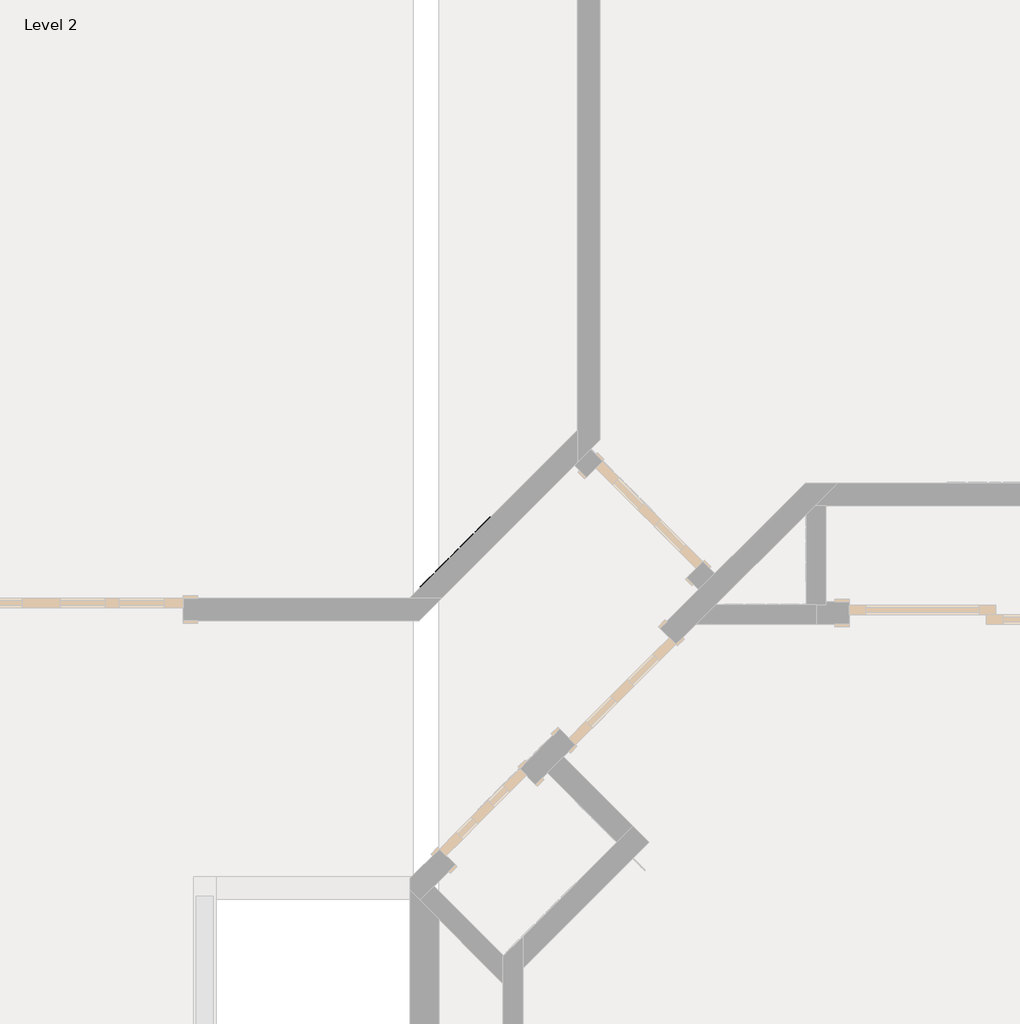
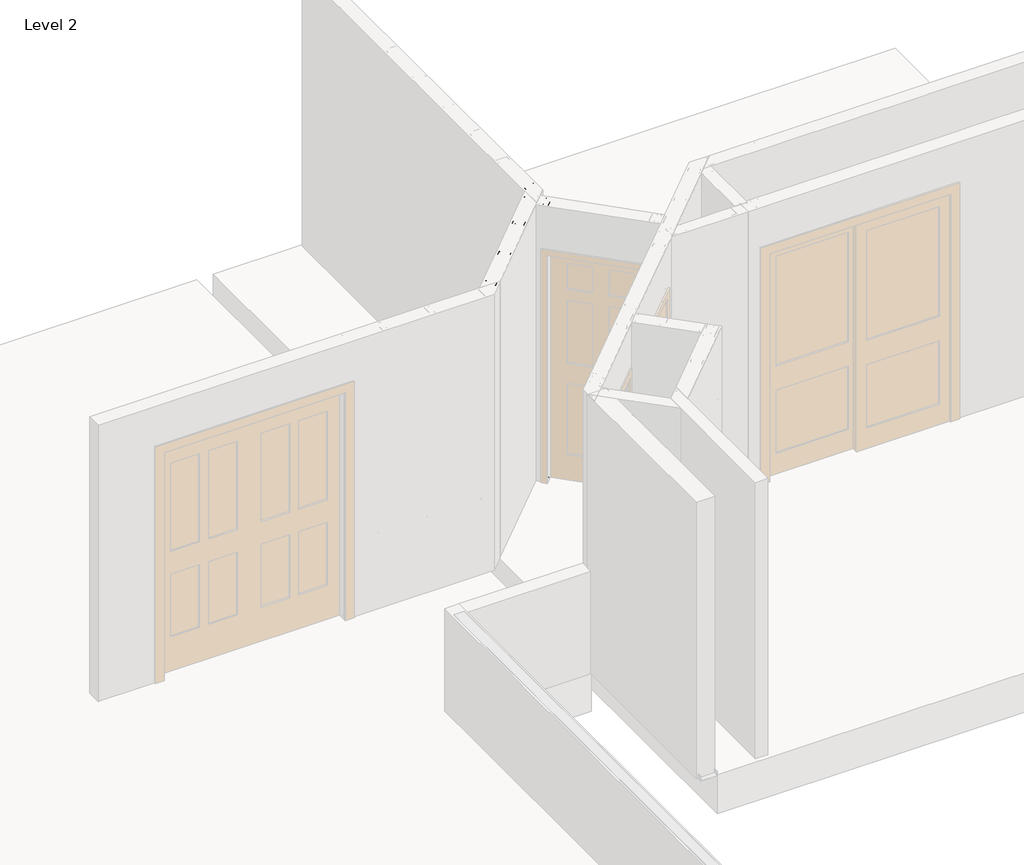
# One storey, part 32 of 46: 6 columns, 2 beams, 1 fastener.
"""IFC4 building model written with IfcOpenShell, lengths in millimetres."""

from ifc_helpers import new_model, si_unit, point, frame, origin, place, context, project, spatial, circle_curve, ellipse_curve, trimmed, transform, mapped, element, save
from ifc_brep_helpers import plane_surface, extruded_surface, advanced_brep
from components import beam_350nf150_33_bcca35cb, beam_350nf150_33_51fc6f5c, column_350nf150_33_a93e9d8a, panellabel_3153df19

model = new_model("IFC4")

# Units and contexts
model_context = context("Model", 3, world=origin())
ifc_project = project(units=[si_unit("LENGTHUNIT", "METRE", prefix="MILLI")], contexts=[model_context])

# Site, building, storey
site = spatial("IfcSite", under=ifc_project)
building = spatial("IfcBuilding", under=site)
storey = spatial("IfcBuildingStorey", under=building, Name="Level 2", Elevation=3060.7)

# Beams
placement = place(None, origin())
beam_350nf150_33_shape = beam_350nf150_33_bcca35cb(model_context)
element("IfcBeam", 1, ObjectType="BIMSF-SSMA-S : 350NF150-33", at=placement, inside=storey, context=model_context, shape_type="MappedRepresentation", body=[
    mapped(beam_350nf150_33_shape, transform((-8623.2388304, 10108.5679326, 3076.575), x_axis=(0.7071067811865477, 0.7071067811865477, 0.0), y_axis=(0.0, 0.0, -1.0000000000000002), z_axis=(-0.7071067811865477, 0.7071067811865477, 0.0))),
])
beam_350nf150_33_2_shape = beam_350nf150_33_51fc6f5c(model_context)
element("IfcBeam", 2, ObjectType="BIMSF-SSMA-S : 350NF150-33", at=placement, inside=storey, context=model_context, shape_type="MappedRepresentation", body=[
    mapped(beam_350nf150_33_2_shape, transform((-8170.2299403, 10423.5677472, 3076.575), x_axis=(0.7071067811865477, -0.7071067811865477, 0.0), y_axis=(0.0, 0.0, -1.0000000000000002), z_axis=(0.7071067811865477, 0.7071067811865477, 0.0))),
])

# Columns
element("IfcColumn", 3, ObjectType="BIMSF-SSMA-S-Column : 350NF150-33", at=placement, inside=storey, context=model_context, shape_type="AdvancedBrep", body=[
    advanced_brep(
    [(-8119.1235524, 10612.6832106, 3061.5929687), (-8208.0235524, 10612.6832106, 3061.5929687), (-8208.0235524, 10650.7832106, 3061.5929687), (-8202.3660366, 10650.7832106, 3061.5929687), (-8202.3660366, 10649.9008948, 3061.5929687), (-8207.1412366, 10649.9008948, 3061.5929687), (-8207.1412366, 10613.5655264, 3061.5929687), (-8120.0058682, 10613.5655264, 3061.5929687), (-8120.0058682, 10649.9008948, 3061.5929687), (-8124.7810682, 10649.9008948, 3061.5929687), (-8124.7810682, 10650.7832106, 3061.5929687), (-8119.1235524, 10650.7832106, 3061.5929687), (-8119.1235524, 10612.6832106, 5523.6070313), (-8208.0235524, 10612.6832106, 5523.6070313), (-8176.2735524, 10612.6832106, 3671.1929688), (-8150.8735524, 10612.6832106, 3671.1929688), (-8176.2735524, 10612.6832106, 4890.3929687), (-8150.8735524, 10612.6832106, 4890.3929687), (-8208.0235524, 10650.7832106, 5523.6070313), (-8202.3660366, 10650.7832106, 5523.6070313), (-8202.3660366, 10649.9008948, 5523.6070313), (-8207.1412366, 10649.9008948, 5523.6070313), (-8207.1412366, 10613.5655264, 5523.6070313), (-8120.0058682, 10613.5655264, 5523.6070313), (-8150.8735524, 10613.5655264, 3671.1929688), (-8176.2735524, 10613.5655264, 3671.1929688), (-8150.8735524, 10613.5655264, 4890.3929688), (-8176.2735524, 10613.5655264, 4890.3929688), (-8120.0058682, 10649.9008948, 5523.6070313), (-8124.7810682, 10649.9008948, 5523.6070313), (-8124.7810682, 10650.7832106, 5523.6070313), (-8119.1235524, 10650.7832106, 5523.6070313)],
    [
        (0, 1),
        (1, 2),
        (2, 3),
        (3, 4),
        (4, 5),
        (5, 6),
        (6, 7),
        (7, 8),
        (8, 9),
        (9, 10),
        (10, 11),
        (11, 0),
        (0, 12),
        (12, 13),
        (13, 1),
        (14, 15, circle_curve(frame((-8163.5735524, 10612.6832106, 3671.1929688), z_axis=(0.0, 1.0, 0.0), x_axis=(-1.0, 0.0, 0.0)), 12.7)),
        (15, 14, circle_curve(frame((-8163.5735524, 10612.6832106, 3671.1929688), z_axis=(0.0, 1.0, 0.0), x_axis=(-1.0, 0.0, 0.0)), 12.7)),
        (16, 17, circle_curve(frame((-8163.5735524, 10612.6832106, 4890.3929687), z_axis=(0.0, 1.0, 0.0), x_axis=(-1.0, 0.0, 0.0)), 12.7)),
        (17, 16, circle_curve(frame((-8163.5735524, 10612.6832106, 4890.3929687), z_axis=(0.0, 1.0, 0.0), x_axis=(-1.0, 0.0, 0.0)), 12.7)),
        (13, 18),
        (18, 2),
        (18, 19),
        (19, 3),
        (19, 20),
        (20, 4),
        (20, 21),
        (21, 5),
        (21, 22),
        (22, 6),
        (22, 23),
        (23, 7),
        (24, 25, circle_curve(frame((-8163.5735524, 10613.5655264, 3671.1929687), z_axis=(0.0, -1.0, 0.0), x_axis=(-1.0, 0.0, 0.0)), 12.7)),
        (25, 24, circle_curve(frame((-8163.5735524, 10613.5655264, 3671.1929687), z_axis=(0.0, -1.0, 0.0), x_axis=(-1.0, 0.0, 0.0)), 12.7)),
        (26, 27, circle_curve(frame((-8163.5735524, 10613.5655264, 4890.3929687), z_axis=(0.0, -1.0, 0.0), x_axis=(-1.0, 0.0, 0.0)), 12.7)),
        (27, 26, circle_curve(frame((-8163.5735524, 10613.5655264, 4890.3929687), z_axis=(0.0, -1.0, 0.0), x_axis=(-1.0, 0.0, 0.0)), 12.7)),
        (23, 28),
        (28, 8),
        (28, 29),
        (29, 9),
        (29, 30),
        (30, 10),
        (30, 31),
        (31, 11),
        (31, 12),
        (24, 15),
        (14, 25),
        (26, 17),
        (16, 27),
    ],
    [
        plane_surface(frame((-8119.1235524, 10612.6832106, 3061.5929687), z_axis=(0.0, 0.0, -1.0), x_axis=(0.0, -1.0, 0.0))),
        plane_surface(frame((-8208.0235524, 10612.6832106, 5523.6070313), z_axis=(0.0, -1.0, 0.0), x_axis=(0.0, 0.0, -1.0))),
        plane_surface(frame((-8208.0235524, 10650.7832106, 5523.6070313), z_axis=(-1.0, 0.0, 0.0), x_axis=(0.0, 0.0, -1.0))),
        plane_surface(frame((-8202.3660366, 10650.7832106, 5523.6070313), z_axis=(0.0, 1.0, 0.0), x_axis=(0.0, 0.0, -1.0))),
        plane_surface(frame((-8202.3660366, 10649.9008948, 5523.6070313), z_axis=(1.0, 0.0, 0.0), x_axis=(0.0, 0.0, -1.0))),
        plane_surface(frame((-8207.1412366, 10649.9008948, 5523.6070313), z_axis=(0.0, -1.0, 0.0), x_axis=(0.0, 0.0, -1.0))),
        plane_surface(frame((-8207.1412366, 10613.5655264, 5523.6070313), z_axis=(1.0, 0.0, 0.0), x_axis=(0.0, 0.0, -1.0))),
        plane_surface(frame((-8120.0058682, 10613.5655264, 5523.6070313), z_axis=(0.0, 1.0, 0.0), x_axis=(0.0, 0.0, -1.0))),
        plane_surface(frame((-8120.0058682, 10649.9008948, 5523.6070313), z_axis=(-1.0, 0.0, 0.0), x_axis=(0.0, 0.0, -1.0))),
        plane_surface(frame((-8124.7810682, 10649.9008948, 5523.6070313), z_axis=(0.0, -1.0, 0.0), x_axis=(0.0, 0.0, -1.0))),
        plane_surface(frame((-8124.7810682, 10650.7832106, 5523.6070313), z_axis=(-1.0, 0.0, 0.0), x_axis=(0.0, 0.0, -1.0))),
        plane_surface(frame((-8119.1235524, 10650.7832106, 5523.6070313), z_axis=(0.0, 1.0, 0.0), x_axis=(0.0, 0.0, -1.0))),
        plane_surface(frame((-8119.1235524, 10612.6832106, 5523.6070313), z_axis=(1.0, 0.0, 0.0), x_axis=(0.0, 0.0, -1.0))),
        plane_surface(frame((-8119.1235524, 10612.6832106, 5523.6070313), z_axis=(0.0, 0.0, 1.0), x_axis=(0.0, 1.0, 0.0))),
        extruded_surface(trimmed(ellipse_curve(frame((-8163.5735524, 13093.7472731, 3671.1929688), z_axis=(0.0, -1.0, 0.0), x_axis=(-1.0, 0.0, 0.0)), 12.7, 12.7), [point((-8150.8735524, 13093.7472731, 3671.1929688))], [point((-8176.2735524, 13093.7472731, 3671.1929688))], True, "CARTESIAN"), (0.0, 4924.028124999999, 0.0), 4924.028124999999),
        extruded_surface(trimmed(ellipse_curve(frame((-8163.5735524, 13093.7472731, 3671.1929688), z_axis=(0.0, -1.0, 0.0), x_axis=(-1.0, 0.0, 0.0)), 12.7, 12.7), [point((-8176.2735524, 13093.7472731, 3671.1929688))], [point((-8150.8735524, 13093.7472731, 3671.1929688))], True, "CARTESIAN"), (0.0, 4924.028124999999, 0.0), 4924.028124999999),
        extruded_surface(trimmed(ellipse_curve(frame((-8163.5735524, 13093.7472731, 4890.3929687), z_axis=(0.0, -1.0, 0.0), x_axis=(-1.0, 0.0, 0.0)), 12.7, 12.7), [point((-8150.8735524, 13093.7472731, 4890.3929687))], [point((-8176.2735524, 13093.7472731, 4890.3929687))], True, "CARTESIAN"), (0.0, 4924.028124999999, 0.0), 4924.028124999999),
        extruded_surface(trimmed(ellipse_curve(frame((-8163.5735524, 13093.7472731, 4890.3929687), z_axis=(0.0, -1.0, 0.0), x_axis=(-1.0, 0.0, 0.0)), 12.7, 12.7), [point((-8176.2735524, 13093.7472731, 4890.3929687))], [point((-8150.8735524, 13093.7472731, 4890.3929687))], True, "CARTESIAN"), (0.0, 4924.028124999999, 0.0), 4924.028124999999),
    ],
    [
        (0, [[1, 2, 3, 4, 5, 6, 7, 8, 9, 10, 11, 12]]),
        (1, [[-1, 13, 14, 15], [16, 17], [18, 19]]),
        (2, [[-2, -15, 20, 21]]),
        (3, [[-3, -21, 22, 23]]),
        (4, [[-4, -23, 24, 25]]),
        (5, [[-5, -25, 26, 27]]),
        (6, [[-6, -27, 28, 29]]),
        (7, [[-7, -29, 30, 31], [32, 33], [34, 35]]),
        (8, [[-8, -31, 36, 37]]),
        (9, [[-9, -37, 38, 39]]),
        (10, [[-10, -39, 40, 41]]),
        (11, [[-11, -41, 42, 43]]),
        (12, [[-12, -43, 44, -13]]),
        (13, [[-14, -44, -42, -40, -38, -36, -30, -28, -26, -24, -22, -20]]),
        (14, [[45, -16, 46, -32]]),
        (15, [[-45, -33, -46, -17]]),
        (16, [[47, -18, 48, -34]]),
        (17, [[-47, -35, -48, -19]]),
    ],
),
])
element("IfcColumn", 4, ObjectType="BIMSF-SSMA-S-Column : 350NF150-33", at=placement, inside=storey, context=model_context, shape_type="AdvancedBrep", body=[
    advanced_brep(
    [(-9007.2431828, 9661.7017873, 3061.5929687), (-9070.1049757, 9724.5635802, 3061.5929687), (-9043.1642073, 9751.5043485, 3061.5929687), (-9039.1637395, 9747.5038808, 3061.5929687), (-9039.787631, 9746.8799893, 3061.5929687), (-9043.1642073, 9750.2565656, 3061.5929687), (-9068.8571927, 9724.5635802, 3061.5929687), (-9007.2431828, 9662.9495703, 3061.5929687), (-8981.5501974, 9688.6425557, 3061.5929687), (-8984.9267737, 9692.019132, 3061.5929687), (-8984.3028822, 9692.6430235, 3061.5929687), (-8980.3024144, 9688.6425557, 3061.5929687), (-9007.2431828, 9661.7017873, 5523.6070313), (-9070.1049757, 9724.5635802, 5523.6070313), (-9047.6543353, 9702.1129399, 3671.1929687), (-9029.6938231, 9684.1524276, 3671.1929687), (-9047.6543353, 9702.1129399, 4890.3929687), (-9029.6938231, 9684.1524276, 4890.3929687), (-9043.1642073, 9751.5043485, 5523.6070313), (-9039.1637395, 9747.5038808, 5523.6070313), (-9039.787631, 9746.8799893, 5523.6070313), (-9043.1642073, 9750.2565656, 5523.6070313), (-9068.8571927, 9724.5635802, 5523.6070313), (-9007.2431828, 9662.9495703, 5523.6070313), (-9029.0699316, 9684.7763191, 3671.1929687), (-9047.0304439, 9702.7368314, 3671.1929687), (-9029.0699316, 9684.7763191, 4890.3929687), (-9047.0304439, 9702.7368314, 4890.3929687), (-8981.5501974, 9688.6425557, 5523.6070313), (-8984.9267737, 9692.019132, 5523.6070313), (-8984.3028822, 9692.6430235, 5523.6070313), (-8980.3024144, 9688.6425557, 5523.6070313)],
    [
        (0, 1),
        (1, 2),
        (2, 3),
        (3, 4),
        (4, 5),
        (5, 6),
        (6, 7),
        (7, 8),
        (8, 9),
        (9, 10),
        (10, 11),
        (11, 0),
        (0, 12),
        (12, 13),
        (13, 1),
        (14, 15, circle_curve(frame((-9038.6740792, 9693.1326838, 3671.1929687), z_axis=(0.7071067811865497, 0.7071067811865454, 0.0), x_axis=(-0.7071067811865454, 0.7071067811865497, 0.0)), 12.7)),
        (15, 14, circle_curve(frame((-9038.6740792, 9693.1326838, 3671.1929687), z_axis=(0.7071067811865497, 0.7071067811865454, 0.0), x_axis=(-0.7071067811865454, 0.7071067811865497, 0.0)), 12.7)),
        (16, 17, circle_curve(frame((-9038.6740792, 9693.1326838, 4890.3929687), z_axis=(0.7071067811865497, 0.7071067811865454, 0.0), x_axis=(-0.7071067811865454, 0.7071067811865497, 0.0)), 12.7)),
        (17, 16, circle_curve(frame((-9038.6740792, 9693.1326838, 4890.3929687), z_axis=(0.7071067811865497, 0.7071067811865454, 0.0), x_axis=(-0.7071067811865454, 0.7071067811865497, 0.0)), 12.7)),
        (13, 18),
        (18, 2),
        (18, 19),
        (19, 3),
        (19, 20),
        (20, 4),
        (20, 21),
        (21, 5),
        (21, 22),
        (22, 6),
        (22, 23),
        (23, 7),
        (24, 25, circle_curve(frame((-9038.0501878, 9693.7565752, 3671.1929688), z_axis=(-0.7071067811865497, -0.7071067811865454, 0.0), x_axis=(-0.7071067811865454, 0.7071067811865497, 0.0)), 12.7)),
        (25, 24, circle_curve(frame((-9038.0501878, 9693.7565752, 3671.1929687), z_axis=(-0.7071067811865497, -0.7071067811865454, 0.0), x_axis=(-0.7071067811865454, 0.7071067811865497, 0.0)), 12.7)),
        (26, 27, circle_curve(frame((-9038.0501878, 9693.7565752, 4890.3929687), z_axis=(-0.7071067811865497, -0.7071067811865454, 0.0), x_axis=(-0.7071067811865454, 0.7071067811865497, 0.0)), 12.7)),
        (27, 26, circle_curve(frame((-9038.0501878, 9693.7565752, 4890.3929687), z_axis=(-0.7071067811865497, -0.7071067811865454, 0.0), x_axis=(-0.7071067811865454, 0.7071067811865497, 0.0)), 12.7)),
        (23, 28),
        (28, 8),
        (28, 29),
        (29, 9),
        (29, 30),
        (30, 10),
        (30, 31),
        (31, 11),
        (31, 12),
        (24, 15),
        (14, 25),
        (26, 17),
        (16, 27),
    ],
    [
        plane_surface(frame((-9007.2431828, 9661.7017873, 3061.5929687), z_axis=(0.0, 0.0, -1.0), x_axis=(-0.7071067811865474, -0.7071067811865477, 0.0))),
        plane_surface(frame((-9070.1049757, 9724.5635802, 5523.6070313), z_axis=(-0.7071067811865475, -0.7071067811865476, 0.0), x_axis=(0.0, 0.0, -1.0))),
        plane_surface(frame((-9043.1642073, 9751.5043485, 5523.6070313), z_axis=(-0.7071067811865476, 0.7071067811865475, 0.0), x_axis=(0.0, 0.0, -1.0))),
        plane_surface(frame((-9039.1637395, 9747.5038808, 5523.6070313), z_axis=(0.7071067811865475, 0.7071067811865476, 0.0), x_axis=(0.0, 0.0, -1.0))),
        plane_surface(frame((-9039.787631, 9746.8799893, 5523.6070313), z_axis=(0.7071067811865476, -0.7071067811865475, 0.0), x_axis=(0.0, 0.0, -1.0))),
        plane_surface(frame((-9043.1642073, 9750.2565656, 5523.6070313), z_axis=(-0.7071067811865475, -0.7071067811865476, 0.0), x_axis=(0.0, 0.0, -1.0))),
        plane_surface(frame((-9068.8571927, 9724.5635802, 5523.6070313), z_axis=(0.7071067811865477, -0.7071067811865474, 0.0), x_axis=(0.0, 0.0, -1.0))),
        plane_surface(frame((-9007.2431828, 9662.9495703, 5523.6070313), z_axis=(0.7071067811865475, 0.7071067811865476, 0.0), x_axis=(0.0, 0.0, -1.0))),
        plane_surface(frame((-8981.5501974, 9688.6425557, 5523.6070313), z_axis=(-0.7071067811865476, 0.7071067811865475, 0.0), x_axis=(0.0, 0.0, -1.0))),
        plane_surface(frame((-8984.9267737, 9692.019132, 5523.6070313), z_axis=(-0.7071067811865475, -0.7071067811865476, 0.0), x_axis=(0.0, 0.0, -1.0))),
        plane_surface(frame((-8984.3028822, 9692.6430235, 5523.6070313), z_axis=(-0.7071067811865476, 0.7071067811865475, 0.0), x_axis=(0.0, 0.0, -1.0))),
        plane_surface(frame((-8980.3024144, 9688.6425557, 5523.6070313), z_axis=(0.7071067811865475, 0.7071067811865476, 0.0), x_axis=(0.0, 0.0, -1.0))),
        plane_surface(frame((-9007.2431828, 9661.7017873, 5523.6070313), z_axis=(0.7071067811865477, -0.7071067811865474, 0.0), x_axis=(0.0, 0.0, -1.0))),
        plane_surface(frame((-9007.2431828, 9661.7017873, 5523.6070313), z_axis=(0.0, 0.0, 1.0), x_axis=(0.7071067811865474, 0.7071067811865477, 0.0))),
        extruded_surface(trimmed(ellipse_curve(frame((-7284.2968561, 11447.5099069, 3671.1929688), z_axis=(-0.7071067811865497, -0.7071067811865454, 0.0), x_axis=(-0.7071067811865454, 0.7071067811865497, 0.0)), 12.7, 12.7), [point((-7275.3166, 11438.5296508, 3671.1929688))], [point((-7293.2771122, 11456.490163, 3671.1929688))], True, "CARTESIAN"), (3481.813678, 3481.8136779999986, 0.0), 4924.028125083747),
        extruded_surface(trimmed(ellipse_curve(frame((-7284.2968561, 11447.5099069, 3671.1929688), z_axis=(-0.7071067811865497, -0.7071067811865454, 0.0), x_axis=(-0.7071067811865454, 0.7071067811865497, 0.0)), 12.7, 12.7), [point((-7293.2771122, 11456.490163, 3671.1929688))], [point((-7275.3166, 11438.5296508, 3671.1929688))], True, "CARTESIAN"), (3481.813678, 3481.8136779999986, 0.0), 4924.028125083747),
        extruded_surface(trimmed(ellipse_curve(frame((-7284.2968561, 11447.5099069, 4890.3929687), z_axis=(-0.7071067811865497, -0.7071067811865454, 0.0), x_axis=(-0.7071067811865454, 0.7071067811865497, 0.0)), 12.7, 12.7), [point((-7275.3166, 11438.5296508, 4890.3929687))], [point((-7293.2771122, 11456.490163, 4890.3929687))], True, "CARTESIAN"), (3481.813678, 3481.8136779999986, 0.0), 4924.028125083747),
        extruded_surface(trimmed(ellipse_curve(frame((-7284.2968561, 11447.5099069, 4890.3929687), z_axis=(-0.7071067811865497, -0.7071067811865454, 0.0), x_axis=(-0.7071067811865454, 0.7071067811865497, 0.0)), 12.7, 12.7), [point((-7293.2771122, 11456.490163, 4890.3929687))], [point((-7275.3166, 11438.5296508, 4890.3929687))], True, "CARTESIAN"), (3481.813678, 3481.8136779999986, 0.0), 4924.028125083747),
    ],
    [
        (0, [[1, 2, 3, 4, 5, 6, 7, 8, 9, 10, 11, 12]]),
        (1, [[-1, 13, 14, 15], [16, 17], [18, 19]]),
        (2, [[-2, -15, 20, 21]]),
        (3, [[-3, -21, 22, 23]]),
        (4, [[-4, -23, 24, 25]]),
        (5, [[-5, -25, 26, 27]]),
        (6, [[-6, -27, 28, 29]]),
        (7, [[-7, -29, 30, 31], [32, 33], [34, 35]]),
        (8, [[-8, -31, 36, 37]]),
        (9, [[-9, -37, 38, 39]]),
        (10, [[-10, -39, 40, 41]]),
        (11, [[-11, -41, 42, 43]]),
        (12, [[-12, -43, 44, -13]]),
        (13, [[-14, -44, -42, -40, -38, -36, -30, -28, -26, -24, -22, -20]]),
        (14, [[45, -16, 46, -32]]),
        (15, [[-45, -33, -46, -17]]),
        (16, [[47, -18, 48, -34]]),
        (17, [[-47, -35, -48, -19]]),
    ],
),
])
element("IfcColumn", 5, ObjectType="BIMSF-SSMA-S-Column : 350NF150-33", at=placement, inside=storey, context=model_context, shape_type="AdvancedBrep", body=[
    advanced_brep(
    [(-8239.234478, 10555.4340778, 3061.5929687), (-8176.3726852, 10492.572285, 3061.5929687), (-8203.3134535, 10465.6315166, 3061.5929687), (-8207.3139213, 10469.6319844, 3061.5929687), (-8206.6900298, 10470.2558759, 3061.5929687), (-8203.3134535, 10466.8792996, 3061.5929687), (-8177.6204681, 10492.572285, 3061.5929687), (-8239.234478, 10554.1862949, 3061.5929687), (-8264.9274634, 10528.4933095, 3061.5929687), (-8261.5508871, 10525.1167332, 3061.5929687), (-8262.1747786, 10524.4928417, 3061.5929687), (-8266.1752464, 10528.4933095, 3061.5929687), (-8239.234478, 10555.4340778, 5523.6070313), (-8176.3726852, 10492.572285, 5523.6070313), (-8198.8233255, 10515.0229253, 3671.1929687), (-8216.7838377, 10532.9834375, 3671.1929687), (-8198.8233255, 10515.0229253, 4890.3929687), (-8216.7838377, 10532.9834375, 4890.3929687), (-8203.3134535, 10465.6315166, 5523.6070313), (-8207.3139213, 10469.6319844, 5523.6070313), (-8206.6900298, 10470.2558759, 5523.6070313), (-8203.3134535, 10466.8792996, 5523.6070313), (-8177.6204681, 10492.572285, 5523.6070313), (-8239.234478, 10554.1862949, 5523.6070313), (-8217.4077292, 10532.359546, 3671.1929687), (-8199.4472169, 10514.3990338, 3671.1929687), (-8217.4077292, 10532.359546, 4890.3929687), (-8199.4472169, 10514.3990338, 4890.3929687), (-8264.9274634, 10528.4933095, 5523.6070313), (-8261.5508871, 10525.1167332, 5523.6070313), (-8262.1747786, 10524.4928417, 5523.6070313), (-8266.1752464, 10528.4933095, 5523.6070313)],
    [
        (0, 1),
        (1, 2),
        (2, 3),
        (3, 4),
        (4, 5),
        (5, 6),
        (6, 7),
        (7, 8),
        (8, 9),
        (9, 10),
        (10, 11),
        (11, 0),
        (0, 12),
        (12, 13),
        (13, 1),
        (14, 15, circle_curve(frame((-8207.8035816, 10524.0031814, 3671.1929688), z_axis=(-0.7071067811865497, -0.7071067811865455, 0.0), x_axis=(0.7071067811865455, -0.7071067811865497, 0.0)), 12.7)),
        (15, 14, circle_curve(frame((-8207.8035816, 10524.0031814, 3671.1929688), z_axis=(-0.7071067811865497, -0.7071067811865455, 0.0), x_axis=(0.7071067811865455, -0.7071067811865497, 0.0)), 12.7)),
        (16, 17, circle_curve(frame((-8207.8035816, 10524.0031814, 4890.3929688), z_axis=(-0.7071067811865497, -0.7071067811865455, 0.0), x_axis=(0.7071067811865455, -0.7071067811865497, 0.0)), 12.7)),
        (17, 16, circle_curve(frame((-8207.8035816, 10524.0031814, 4890.3929687), z_axis=(-0.7071067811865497, -0.7071067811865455, 0.0), x_axis=(0.7071067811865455, -0.7071067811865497, 0.0)), 12.7)),
        (13, 18),
        (18, 2),
        (18, 19),
        (19, 3),
        (19, 20),
        (20, 4),
        (20, 21),
        (21, 5),
        (21, 22),
        (22, 6),
        (22, 23),
        (23, 7),
        (24, 25, circle_curve(frame((-8208.4274731, 10523.3792899, 3671.1929687), z_axis=(0.7071067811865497, 0.7071067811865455, 0.0), x_axis=(0.7071067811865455, -0.7071067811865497, 0.0)), 12.7)),
        (25, 24, circle_curve(frame((-8208.4274731, 10523.3792899, 3671.1929688), z_axis=(0.7071067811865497, 0.7071067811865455, 0.0), x_axis=(0.7071067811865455, -0.7071067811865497, 0.0)), 12.7)),
        (26, 27, circle_curve(frame((-8208.4274731, 10523.3792899, 4890.3929687), z_axis=(0.7071067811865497, 0.7071067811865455, 0.0), x_axis=(0.7071067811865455, -0.7071067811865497, 0.0)), 12.7)),
        (27, 26, circle_curve(frame((-8208.4274731, 10523.3792899, 4890.3929687), z_axis=(0.7071067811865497, 0.7071067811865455, 0.0), x_axis=(0.7071067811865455, -0.7071067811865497, 0.0)), 12.7)),
        (23, 28),
        (28, 8),
        (28, 29),
        (29, 9),
        (29, 30),
        (30, 10),
        (30, 31),
        (31, 11),
        (31, 12),
        (24, 15),
        (14, 25),
        (26, 17),
        (16, 27),
    ],
    [
        plane_surface(frame((-8239.234478, 10555.4340778, 3061.5929687), z_axis=(0.0, 0.0, -1.0), x_axis=(0.7071067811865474, 0.7071067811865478, 0.0))),
        plane_surface(frame((-8176.3726852, 10492.572285, 5523.6070313), z_axis=(0.7071067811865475, 0.7071067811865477, 0.0), x_axis=(0.0, 0.0, -1.0))),
        plane_surface(frame((-8203.3134535, 10465.6315166, 5523.6070313), z_axis=(0.7071067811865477, -0.7071067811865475, 0.0), x_axis=(0.0, 0.0, -1.0))),
        plane_surface(frame((-8207.3139213, 10469.6319844, 5523.6070313), z_axis=(-0.7071067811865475, -0.7071067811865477, 0.0), x_axis=(0.0, 0.0, -1.0))),
        plane_surface(frame((-8206.6900298, 10470.2558759, 5523.6070313), z_axis=(-0.7071067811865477, 0.7071067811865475, 0.0), x_axis=(0.0, 0.0, -1.0))),
        plane_surface(frame((-8203.3134535, 10466.8792996, 5523.6070313), z_axis=(0.7071067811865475, 0.7071067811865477, 0.0), x_axis=(0.0, 0.0, -1.0))),
        plane_surface(frame((-8177.6204681, 10492.572285, 5523.6070313), z_axis=(-0.7071067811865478, 0.7071067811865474, 0.0), x_axis=(0.0, 0.0, -1.0))),
        plane_surface(frame((-8239.234478, 10554.1862949, 5523.6070313), z_axis=(-0.7071067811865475, -0.7071067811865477, 0.0), x_axis=(0.0, 0.0, -1.0))),
        plane_surface(frame((-8264.9274634, 10528.4933095, 5523.6070313), z_axis=(0.7071067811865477, -0.7071067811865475, 0.0), x_axis=(0.0, 0.0, -1.0))),
        plane_surface(frame((-8261.5508871, 10525.1167332, 5523.6070313), z_axis=(0.7071067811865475, 0.7071067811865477, 0.0), x_axis=(0.0, 0.0, -1.0))),
        plane_surface(frame((-8262.1747786, 10524.4928417, 5523.6070313), z_axis=(0.7071067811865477, -0.7071067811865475, 0.0), x_axis=(0.0, 0.0, -1.0))),
        plane_surface(frame((-8266.1752464, 10528.4933095, 5523.6070313), z_axis=(-0.7071067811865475, -0.7071067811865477, 0.0), x_axis=(0.0, 0.0, -1.0))),
        plane_surface(frame((-8239.234478, 10555.4340778, 5523.6070313), z_axis=(-0.7071067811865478, 0.7071067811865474, 0.0), x_axis=(0.0, 0.0, -1.0))),
        plane_surface(frame((-8239.234478, 10555.4340778, 5523.6070313), z_axis=(0.0, 0.0, 1.0), x_axis=(-0.7071067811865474, -0.7071067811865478, 0.0))),
        extruded_surface(trimmed(ellipse_curve(frame((-9962.1808047, 8769.6259583, 3671.1929688), z_axis=(0.7071067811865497, 0.7071067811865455, 0.0), x_axis=(0.7071067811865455, -0.7071067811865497, 0.0)), 12.7, 12.7), [point((-9971.1610609, 8778.6062144, 3671.1929688))], [point((-9953.2005486, 8760.6457021, 3671.1929688))], True, "CARTESIAN"), (-3481.8136780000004, -3481.8136779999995, 0.0), 4924.028125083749),
        extruded_surface(trimmed(ellipse_curve(frame((-9962.1808047, 8769.6259583, 3671.1929688), z_axis=(0.7071067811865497, 0.7071067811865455, 0.0), x_axis=(0.7071067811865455, -0.7071067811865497, 0.0)), 12.7, 12.7), [point((-9953.2005486, 8760.6457021, 3671.1929688))], [point((-9971.1610609, 8778.6062144, 3671.1929688))], True, "CARTESIAN"), (-3481.8136780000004, -3481.8136779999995, 0.0), 4924.028125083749),
        extruded_surface(trimmed(ellipse_curve(frame((-9962.1808047, 8769.6259583, 4890.3929687), z_axis=(0.7071067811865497, 0.7071067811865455, 0.0), x_axis=(0.7071067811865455, -0.7071067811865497, 0.0)), 12.7, 12.7), [point((-9971.1610609, 8778.6062144, 4890.3929687))], [point((-9953.2005486, 8760.6457021, 4890.3929687))], True, "CARTESIAN"), (-3481.8136780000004, -3481.8136779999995, 0.0), 4924.028125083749),
        extruded_surface(trimmed(ellipse_curve(frame((-9962.1808047, 8769.6259583, 4890.3929687), z_axis=(0.7071067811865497, 0.7071067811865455, 0.0), x_axis=(0.7071067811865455, -0.7071067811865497, 0.0)), 12.7, 12.7), [point((-9953.2005486, 8760.6457021, 4890.3929687))], [point((-9971.1610609, 8778.6062144, 4890.3929687))], True, "CARTESIAN"), (-3481.8136780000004, -3481.8136779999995, 0.0), 4924.028125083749),
    ],
    [
        (0, [[1, 2, 3, 4, 5, 6, 7, 8, 9, 10, 11, 12]]),
        (1, [[-1, 13, 14, 15], [16, 17], [18, 19]]),
        (2, [[-2, -15, 20, 21]]),
        (3, [[-3, -21, 22, 23]]),
        (4, [[-4, -23, 24, 25]]),
        (5, [[-5, -25, 26, 27]]),
        (6, [[-6, -27, 28, 29]]),
        (7, [[-7, -29, 30, 31], [32, 33], [34, 35]]),
        (8, [[-8, -31, 36, 37]]),
        (9, [[-9, -37, 38, 39]]),
        (10, [[-10, -39, 40, 41]]),
        (11, [[-11, -41, 42, 43]]),
        (12, [[-12, -43, 44, -13]]),
        (13, [[-14, -44, -42, -40, -38, -36, -30, -28, -26, -24, -22, -20]]),
        (14, [[45, -16, 46, -32]]),
        (15, [[-45, -33, -46, -17]]),
        (16, [[47, -18, 48, -34]]),
        (17, [[-47, -35, -48, -19]]),
    ],
),
])
element("IfcColumn", 6, ObjectType="BIMSF-SSMA-S-Column : 350NF150-33", at=placement, inside=storey, context=model_context, shape_type="AdvancedBrep", body=[
    advanced_brep(
    [(-8733.3453711, 9935.599599, 3061.5929687), (-8796.207164, 9998.4613919, 3061.5929687), (-8769.2663956, 10025.4021602, 3061.5929687), (-8765.2659278, 10021.4016925, 3061.5929687), (-8765.8898193, 10020.777801, 3061.5929687), (-8769.2663956, 10024.1543773, 3061.5929687), (-8794.959381, 9998.4613919, 3061.5929687), (-8733.3453711, 9936.847382, 3061.5929687), (-8707.6523857, 9962.5403674, 3061.5929687), (-8711.028962, 9965.9169437, 3061.5929687), (-8710.4050705, 9966.5408352, 3061.5929687), (-8706.4046027, 9962.5403674, 3061.5929687), (-8733.3453711, 9935.599599, 5523.6070313), (-8796.207164, 9998.4613919, 5523.6070313), (-8773.7565237, 9976.0107516, 3671.1929688), (-8755.7960114, 9958.0502393, 3671.1929688), (-8773.7565237, 9976.0107516, 4890.3929688), (-8755.7960114, 9958.0502393, 4890.3929688), (-8769.2663956, 10025.4021602, 5523.6070313), (-8765.2659278, 10021.4016925, 5523.6070313), (-8765.8898193, 10020.777801, 5523.6070313), (-8769.2663956, 10024.1543773, 5523.6070313), (-8794.959381, 9998.4613919, 5523.6070313), (-8733.3453711, 9936.847382, 5523.6070313), (-8755.1721199, 9958.6741308, 3671.1929688), (-8773.1326322, 9976.634643, 3671.1929688), (-8755.1721199, 9958.6741308, 4890.3929688), (-8773.1326322, 9976.634643, 4890.3929688), (-8707.6523857, 9962.5403674, 5523.6070313), (-8711.028962, 9965.9169437, 5523.6070313), (-8710.4050705, 9966.5408352, 5523.6070313), (-8706.4046027, 9962.5403674, 5523.6070313)],
    [
        (0, 1),
        (1, 2),
        (2, 3),
        (3, 4),
        (4, 5),
        (5, 6),
        (6, 7),
        (7, 8),
        (8, 9),
        (9, 10),
        (10, 11),
        (11, 0),
        (0, 12),
        (12, 13),
        (13, 1),
        (14, 15, circle_curve(frame((-8764.7762675, 9967.0304955, 3671.1929687), z_axis=(0.7071067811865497, 0.7071067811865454, 0.0), x_axis=(-0.7071067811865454, 0.7071067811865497, 0.0)), 12.7)),
        (15, 14, circle_curve(frame((-8764.7762675, 9967.0304955, 3671.1929687), z_axis=(0.7071067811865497, 0.7071067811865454, 0.0), x_axis=(-0.7071067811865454, 0.7071067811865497, 0.0)), 12.7)),
        (16, 17, circle_curve(frame((-8764.7762675, 9967.0304955, 4890.3929687), z_axis=(0.7071067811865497, 0.7071067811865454, 0.0), x_axis=(-0.7071067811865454, 0.7071067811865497, 0.0)), 12.7)),
        (17, 16, circle_curve(frame((-8764.7762675, 9967.0304955, 4890.3929687), z_axis=(0.7071067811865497, 0.7071067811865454, 0.0), x_axis=(-0.7071067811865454, 0.7071067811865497, 0.0)), 12.7)),
        (13, 18),
        (18, 2),
        (18, 19),
        (19, 3),
        (19, 20),
        (20, 4),
        (20, 21),
        (21, 5),
        (21, 22),
        (22, 6),
        (22, 23),
        (23, 7),
        (24, 25, circle_curve(frame((-8764.1523761, 9967.6543869, 3671.1929688), z_axis=(-0.7071067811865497, -0.7071067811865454, 0.0), x_axis=(-0.7071067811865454, 0.7071067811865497, 0.0)), 12.7)),
        (25, 24, circle_curve(frame((-8764.1523761, 9967.6543869, 3671.1929688), z_axis=(-0.7071067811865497, -0.7071067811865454, 0.0), x_axis=(-0.7071067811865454, 0.7071067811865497, 0.0)), 12.7)),
        (26, 27, circle_curve(frame((-8764.1523761, 9967.6543869, 4890.3929687), z_axis=(-0.7071067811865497, -0.7071067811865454, 0.0), x_axis=(-0.7071067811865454, 0.7071067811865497, 0.0)), 12.7)),
        (27, 26, circle_curve(frame((-8764.1523761, 9967.6543869, 4890.3929687), z_axis=(-0.7071067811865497, -0.7071067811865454, 0.0), x_axis=(-0.7071067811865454, 0.7071067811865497, 0.0)), 12.7)),
        (23, 28),
        (28, 8),
        (28, 29),
        (29, 9),
        (29, 30),
        (30, 10),
        (30, 31),
        (31, 11),
        (31, 12),
        (24, 15),
        (14, 25),
        (26, 17),
        (16, 27),
    ],
    [
        plane_surface(frame((-8733.3453711, 9935.599599, 3061.5929687), z_axis=(0.0, 0.0, -1.0), x_axis=(-0.7071067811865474, -0.7071067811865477, 0.0))),
        plane_surface(frame((-8796.207164, 9998.4613919, 5523.6070313), z_axis=(-0.7071067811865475, -0.7071067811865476, 0.0), x_axis=(0.0, 0.0, -1.0))),
        plane_surface(frame((-8769.2663956, 10025.4021602, 5523.6070313), z_axis=(-0.7071067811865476, 0.7071067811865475, 0.0), x_axis=(0.0, 0.0, -1.0))),
        plane_surface(frame((-8765.2659278, 10021.4016925, 5523.6070313), z_axis=(0.7071067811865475, 0.7071067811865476, 0.0), x_axis=(0.0, 0.0, -1.0))),
        plane_surface(frame((-8765.8898193, 10020.777801, 5523.6070313), z_axis=(0.7071067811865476, -0.7071067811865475, 0.0), x_axis=(0.0, 0.0, -1.0))),
        plane_surface(frame((-8769.2663956, 10024.1543773, 5523.6070313), z_axis=(-0.7071067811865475, -0.7071067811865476, 0.0), x_axis=(0.0, 0.0, -1.0))),
        plane_surface(frame((-8794.959381, 9998.4613919, 5523.6070313), z_axis=(0.7071067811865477, -0.7071067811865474, 0.0), x_axis=(0.0, 0.0, -1.0))),
        plane_surface(frame((-8733.3453711, 9936.847382, 5523.6070313), z_axis=(0.7071067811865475, 0.7071067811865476, 0.0), x_axis=(0.0, 0.0, -1.0))),
        plane_surface(frame((-8707.6523857, 9962.5403674, 5523.6070313), z_axis=(-0.7071067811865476, 0.7071067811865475, 0.0), x_axis=(0.0, 0.0, -1.0))),
        plane_surface(frame((-8711.028962, 9965.9169437, 5523.6070313), z_axis=(-0.7071067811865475, -0.7071067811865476, 0.0), x_axis=(0.0, 0.0, -1.0))),
        plane_surface(frame((-8710.4050705, 9966.5408352, 5523.6070313), z_axis=(-0.7071067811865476, 0.7071067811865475, 0.0), x_axis=(0.0, 0.0, -1.0))),
        plane_surface(frame((-8706.4046027, 9962.5403674, 5523.6070313), z_axis=(0.7071067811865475, 0.7071067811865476, 0.0), x_axis=(0.0, 0.0, -1.0))),
        plane_surface(frame((-8733.3453711, 9935.599599, 5523.6070313), z_axis=(0.7071067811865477, -0.7071067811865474, 0.0), x_axis=(0.0, 0.0, -1.0))),
        plane_surface(frame((-8733.3453711, 9935.599599, 5523.6070313), z_axis=(0.0, 0.0, 1.0), x_axis=(0.7071067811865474, 0.7071067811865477, 0.0))),
        extruded_surface(trimmed(ellipse_curve(frame((-7010.3990444, 11721.4077186, 3671.1929688), z_axis=(-0.7071067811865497, -0.7071067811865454, 0.0), x_axis=(-0.7071067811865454, 0.7071067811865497, 0.0)), 12.7, 12.7), [point((-7001.4187883, 11712.4274625, 3671.1929688))], [point((-7019.3793005, 11730.3879747, 3671.1929688))], True, "CARTESIAN"), (3481.813678, 3481.8136778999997, 0.0), 4924.028125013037),
        extruded_surface(trimmed(ellipse_curve(frame((-7010.3990444, 11721.4077186, 3671.1929688), z_axis=(-0.7071067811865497, -0.7071067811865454, 0.0), x_axis=(-0.7071067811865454, 0.7071067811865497, 0.0)), 12.7, 12.7), [point((-7019.3793005, 11730.3879747, 3671.1929688))], [point((-7001.4187883, 11712.4274625, 3671.1929688))], True, "CARTESIAN"), (3481.813678, 3481.8136778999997, 0.0), 4924.028125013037),
        extruded_surface(trimmed(ellipse_curve(frame((-7010.3990444, 11721.4077186, 4890.3929687), z_axis=(-0.7071067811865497, -0.7071067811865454, 0.0), x_axis=(-0.7071067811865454, 0.7071067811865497, 0.0)), 12.7, 12.7), [point((-7001.4187883, 11712.4274625, 4890.3929687))], [point((-7019.3793005, 11730.3879747, 4890.3929687))], True, "CARTESIAN"), (3481.813678, 3481.8136778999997, 0.0), 4924.028125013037),
        extruded_surface(trimmed(ellipse_curve(frame((-7010.3990444, 11721.4077186, 4890.3929687), z_axis=(-0.7071067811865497, -0.7071067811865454, 0.0), x_axis=(-0.7071067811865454, 0.7071067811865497, 0.0)), 12.7, 12.7), [point((-7019.3793005, 11730.3879747, 4890.3929687))], [point((-7001.4187883, 11712.4274625, 4890.3929687))], True, "CARTESIAN"), (3481.813678, 3481.8136778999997, 0.0), 4924.028125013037),
    ],
    [
        (0, [[1, 2, 3, 4, 5, 6, 7, 8, 9, 10, 11, 12]]),
        (1, [[-1, 13, 14, 15], [16, 17], [18, 19]]),
        (2, [[-2, -15, 20, 21]]),
        (3, [[-3, -21, 22, 23]]),
        (4, [[-4, -23, 24, 25]]),
        (5, [[-5, -25, 26, 27]]),
        (6, [[-6, -27, 28, 29]]),
        (7, [[-7, -29, 30, 31], [32, 33], [34, 35]]),
        (8, [[-8, -31, 36, 37]]),
        (9, [[-9, -37, 38, 39]]),
        (10, [[-10, -39, 40, 41]]),
        (11, [[-11, -41, 42, 43]]),
        (12, [[-12, -43, 44, -13]]),
        (13, [[-14, -44, -42, -40, -38, -36, -30, -28, -26, -24, -22, -20]]),
        (14, [[45, -16, 46, -32]]),
        (15, [[-45, -33, -46, -17]]),
        (16, [[47, -18, 48, -34]]),
        (17, [[-47, -35, -48, -19]]),
    ],
),
])
element("IfcColumn", 7, ObjectType="BIMSF-SSMA-S-Column : 350NF150-33", at=placement, inside=storey, context=model_context, shape_type="AdvancedBrep", body=[
    advanced_brep(
    [(-8445.9771752, 10222.9677949, 3061.5929687), (-8508.8389681, 10285.8295878, 3061.5929687), (-8481.8981997, 10312.7703561, 3061.5929687), (-8477.8977319, 10308.7698883, 3061.5929687), (-8478.5216234, 10308.1459969, 3061.5929687), (-8481.8981997, 10311.5225732, 3061.5929687), (-8507.5911851, 10285.8295878, 3061.5929687), (-8445.9771752, 10224.2155779, 3061.5929687), (-8420.2841898, 10249.9085633, 3061.5929687), (-8423.6607661, 10253.2851396, 3061.5929687), (-8423.0368747, 10253.909031, 3061.5929687), (-8419.0364069, 10249.9085633, 3061.5929687), (-8445.9771752, 10222.9677949, 5523.6070313), (-8508.8389681, 10285.8295878, 5523.6070313), (-8486.3883278, 10263.3789474, 3671.1929687), (-8468.4278155, 10245.4184352, 3671.1929687), (-8486.3883278, 10263.3789474, 4890.3929687), (-8468.4278155, 10245.4184352, 4890.3929687), (-8481.8981997, 10312.7703561, 5523.6070313), (-8477.8977319, 10308.7698883, 5523.6070313), (-8478.5216234, 10308.1459969, 5523.6070313), (-8481.8981997, 10311.5225732, 5523.6070313), (-8507.5911851, 10285.8295878, 5523.6070313), (-8445.9771752, 10224.2155779, 5523.6070313), (-8467.8039241, 10246.0423267, 3671.1929687), (-8485.7644363, 10264.0028389, 3671.1929687), (-8467.8039241, 10246.0423267, 4890.3929687), (-8485.7644363, 10264.0028389, 4890.3929687), (-8420.2841898, 10249.9085633, 5523.6070313), (-8423.6607661, 10253.2851396, 5523.6070313), (-8423.0368747, 10253.909031, 5523.6070313), (-8419.0364069, 10249.9085633, 5523.6070313)],
    [
        (0, 1),
        (1, 2),
        (2, 3),
        (3, 4),
        (4, 5),
        (5, 6),
        (6, 7),
        (7, 8),
        (8, 9),
        (9, 10),
        (10, 11),
        (11, 0),
        (0, 12),
        (12, 13),
        (13, 1),
        (14, 15, circle_curve(frame((-8477.4080717, 10254.3986913, 3671.1929687), z_axis=(0.7071067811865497, 0.7071067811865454, 0.0), x_axis=(-0.7071067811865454, 0.7071067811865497, 0.0)), 12.7)),
        (15, 14, circle_curve(frame((-8477.4080717, 10254.3986913, 3671.1929688), z_axis=(0.7071067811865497, 0.7071067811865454, 0.0), x_axis=(-0.7071067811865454, 0.7071067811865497, 0.0)), 12.7)),
        (16, 17, circle_curve(frame((-8477.4080717, 10254.3986913, 4890.3929687), z_axis=(0.7071067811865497, 0.7071067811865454, 0.0), x_axis=(-0.7071067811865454, 0.7071067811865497, 0.0)), 12.7)),
        (17, 16, circle_curve(frame((-8477.4080717, 10254.3986913, 4890.3929687), z_axis=(0.7071067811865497, 0.7071067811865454, 0.0), x_axis=(-0.7071067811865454, 0.7071067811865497, 0.0)), 12.7)),
        (13, 18),
        (18, 2),
        (18, 19),
        (19, 3),
        (19, 20),
        (20, 4),
        (20, 21),
        (21, 5),
        (21, 22),
        (22, 6),
        (22, 23),
        (23, 7),
        (24, 25, circle_curve(frame((-8476.7841802, 10255.0225828, 3671.1929688), z_axis=(-0.7071067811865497, -0.7071067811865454, 0.0), x_axis=(-0.7071067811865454, 0.7071067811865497, 0.0)), 12.7)),
        (25, 24, circle_curve(frame((-8476.7841802, 10255.0225828, 3671.1929688), z_axis=(-0.7071067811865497, -0.7071067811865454, 0.0), x_axis=(-0.7071067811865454, 0.7071067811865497, 0.0)), 12.7)),
        (26, 27, circle_curve(frame((-8476.7841802, 10255.0225828, 4890.3929687), z_axis=(-0.7071067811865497, -0.7071067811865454, 0.0), x_axis=(-0.7071067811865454, 0.7071067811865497, 0.0)), 12.7)),
        (27, 26, circle_curve(frame((-8476.7841802, 10255.0225828, 4890.3929687), z_axis=(-0.7071067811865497, -0.7071067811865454, 0.0), x_axis=(-0.7071067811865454, 0.7071067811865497, 0.0)), 12.7)),
        (23, 28),
        (28, 8),
        (28, 29),
        (29, 9),
        (29, 30),
        (30, 10),
        (30, 31),
        (31, 11),
        (31, 12),
        (24, 15),
        (14, 25),
        (26, 17),
        (16, 27),
    ],
    [
        plane_surface(frame((-8445.9771752, 10222.9677949, 3061.5929687), z_axis=(0.0, 0.0, -1.0), x_axis=(-0.7071067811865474, -0.7071067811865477, 0.0))),
        plane_surface(frame((-8508.8389681, 10285.8295878, 5523.6070313), z_axis=(-0.7071067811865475, -0.7071067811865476, 0.0), x_axis=(0.0, 0.0, -1.0))),
        plane_surface(frame((-8481.8981997, 10312.7703561, 5523.6070313), z_axis=(-0.7071067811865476, 0.7071067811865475, 0.0), x_axis=(0.0, 0.0, -1.0))),
        plane_surface(frame((-8477.8977319, 10308.7698883, 5523.6070313), z_axis=(0.7071067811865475, 0.7071067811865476, 0.0), x_axis=(0.0, 0.0, -1.0))),
        plane_surface(frame((-8478.5216234, 10308.1459969, 5523.6070313), z_axis=(0.7071067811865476, -0.7071067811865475, 0.0), x_axis=(0.0, 0.0, -1.0))),
        plane_surface(frame((-8481.8981997, 10311.5225732, 5523.6070313), z_axis=(-0.7071067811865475, -0.7071067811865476, 0.0), x_axis=(0.0, 0.0, -1.0))),
        plane_surface(frame((-8507.5911851, 10285.8295878, 5523.6070313), z_axis=(0.7071067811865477, -0.7071067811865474, 0.0), x_axis=(0.0, 0.0, -1.0))),
        plane_surface(frame((-8445.9771752, 10224.2155779, 5523.6070313), z_axis=(0.7071067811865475, 0.7071067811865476, 0.0), x_axis=(0.0, 0.0, -1.0))),
        plane_surface(frame((-8420.2841898, 10249.9085633, 5523.6070313), z_axis=(-0.7071067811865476, 0.7071067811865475, 0.0), x_axis=(0.0, 0.0, -1.0))),
        plane_surface(frame((-8423.6607661, 10253.2851396, 5523.6070313), z_axis=(-0.7071067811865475, -0.7071067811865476, 0.0), x_axis=(0.0, 0.0, -1.0))),
        plane_surface(frame((-8423.0368747, 10253.909031, 5523.6070313), z_axis=(-0.7071067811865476, 0.7071067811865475, 0.0), x_axis=(0.0, 0.0, -1.0))),
        plane_surface(frame((-8419.0364069, 10249.9085633, 5523.6070313), z_axis=(0.7071067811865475, 0.7071067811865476, 0.0), x_axis=(0.0, 0.0, -1.0))),
        plane_surface(frame((-8445.9771752, 10222.9677949, 5523.6070313), z_axis=(0.7071067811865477, -0.7071067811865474, 0.0), x_axis=(0.0, 0.0, -1.0))),
        plane_surface(frame((-8445.9771752, 10222.9677949, 5523.6070313), z_axis=(0.0, 0.0, 1.0), x_axis=(0.7071067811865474, 0.7071067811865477, 0.0))),
        extruded_surface(trimmed(ellipse_curve(frame((-6723.0308485, 12008.7759145, 3671.1929688), z_axis=(-0.7071067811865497, -0.7071067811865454, 0.0), x_axis=(-0.7071067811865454, 0.7071067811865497, 0.0)), 12.7, 12.7), [point((-6714.0505924, 11999.7956584, 3671.1929688))], [point((-6732.0111046, 12017.7561706, 3671.1929688))], True, "CARTESIAN"), (3481.8136778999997, 3481.8136778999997, 0.0), 4924.028124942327),
        extruded_surface(trimmed(ellipse_curve(frame((-6723.0308485, 12008.7759145, 3671.1929688), z_axis=(-0.7071067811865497, -0.7071067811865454, 0.0), x_axis=(-0.7071067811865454, 0.7071067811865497, 0.0)), 12.7, 12.7), [point((-6732.0111046, 12017.7561706, 3671.1929688))], [point((-6714.0505924, 11999.7956584, 3671.1929688))], True, "CARTESIAN"), (3481.8136778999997, 3481.8136778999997, 0.0), 4924.028124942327),
        extruded_surface(trimmed(ellipse_curve(frame((-6723.0308485, 12008.7759145, 4890.3929687), z_axis=(-0.7071067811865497, -0.7071067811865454, 0.0), x_axis=(-0.7071067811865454, 0.7071067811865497, 0.0)), 12.7, 12.7), [point((-6714.0505924, 11999.7956584, 4890.3929687))], [point((-6732.0111046, 12017.7561706, 4890.3929687))], True, "CARTESIAN"), (3481.8136778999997, 3481.8136778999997, 0.0), 4924.028124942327),
        extruded_surface(trimmed(ellipse_curve(frame((-6723.0308485, 12008.7759145, 4890.3929687), z_axis=(-0.7071067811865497, -0.7071067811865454, 0.0), x_axis=(-0.7071067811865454, 0.7071067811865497, 0.0)), 12.7, 12.7), [point((-6732.0111046, 12017.7561706, 4890.3929687))], [point((-6714.0505924, 11999.7956584, 4890.3929687))], True, "CARTESIAN"), (3481.8136778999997, 3481.8136778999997, 0.0), 4924.028124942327),
    ],
    [
        (0, [[1, 2, 3, 4, 5, 6, 7, 8, 9, 10, 11, 12]]),
        (1, [[-1, 13, 14, 15], [16, 17], [18, 19]]),
        (2, [[-2, -15, 20, 21]]),
        (3, [[-3, -21, 22, 23]]),
        (4, [[-4, -23, 24, 25]]),
        (5, [[-5, -25, 26, 27]]),
        (6, [[-6, -27, 28, 29]]),
        (7, [[-7, -29, 30, 31], [32, 33], [34, 35]]),
        (8, [[-8, -31, 36, 37]]),
        (9, [[-9, -37, 38, 39]]),
        (10, [[-10, -39, 40, 41]]),
        (11, [[-11, -41, 42, 43]]),
        (12, [[-12, -43, 44, -13]]),
        (13, [[-14, -44, -42, -40, -38, -36, -30, -28, -26, -24, -22, -20]]),
        (14, [[45, -16, 46, -32]]),
        (15, [[-45, -33, -46, -17]]),
        (16, [[47, -18, 48, -34]]),
        (17, [[-47, -35, -48, -19]]),
    ],
),
])
column_350nf150_33_shape = column_350nf150_33_a93e9d8a(model_context)
element("IfcColumn", 8, ObjectType="BIMSF-SSMA-S-Column : 350NF150-33", at=placement, inside=storey, context=model_context, shape_type="MappedRepresentation", body=[
    mapped(column_350nf150_33_shape, transform((-8148.7323099, 10386.8855291, 0.0), x_axis=(-0.7071067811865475, 0.7071067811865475, 0.0), y_axis=(-0.7071067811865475, -0.7071067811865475, 0.0), z_axis=(0.0, 0.0, 1.0))),
])

# Fastener
panellabel_shape = panellabel_3153df19(model_context)
element("IfcFastener", 9, ObjectType="PanelLabel : Miranda", at=placement, inside=storey, context=model_context, shape_type="MappedRepresentation", body=[
    mapped(panellabel_shape, transform((-8830.9564548, 9900.8503082, 2289.5386234), x_axis=(0.7071067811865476, 0.7071067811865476, 0.0), y_axis=(-0.7071067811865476, 0.7071067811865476, 0.0), z_axis=(0.0, 0.0, 1.0))),
])

save(model, "model.ifc")
